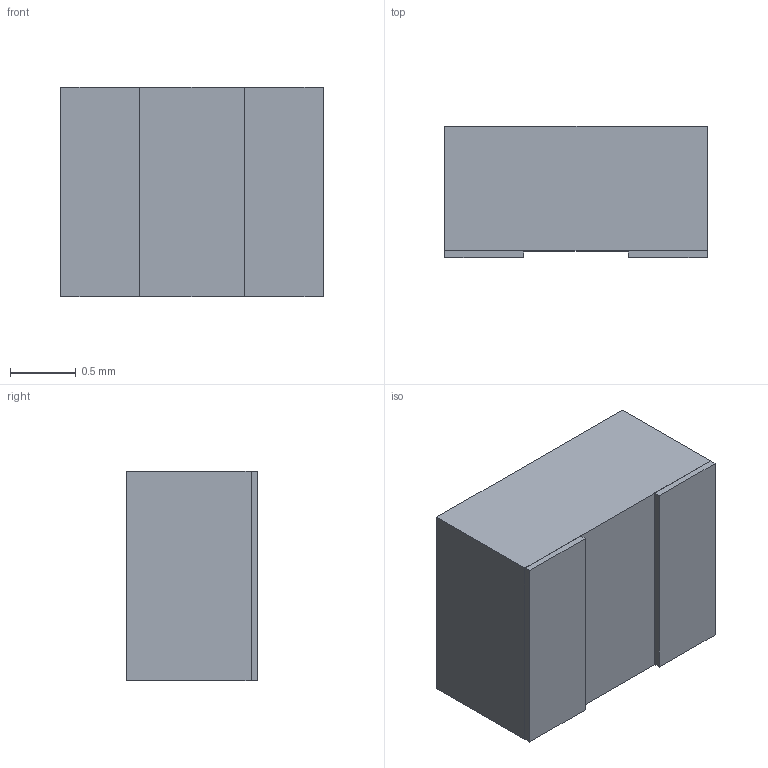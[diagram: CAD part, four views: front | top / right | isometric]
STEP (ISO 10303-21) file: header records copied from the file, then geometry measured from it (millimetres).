
FILE_DESCRIPTION (( 'STEP AP214' ), '1' );
FILE_NAME ('AOTA-B201610S3R3-101-T.STEP', '2026-04-05T09:22:43', ( 'LENOVO' ), ( '' ), 'SwSTEP 2.0', 'SolidWorks 2021', '' );
FILE_SCHEMA (( 'AUTOMOTIVE_DESIGN' ));
Length unit declared in the file: millimetre
Products named in the file (1): AOTA-B201610S3R3-101-T
Bounding box: 2 x 1 x 1.6 mm (x, y, z)
Volume: 3.1 mm3; surface area: 17.8 mm2
Topology: 4 solids, 4 shells, 25 faces, 48 edges, 32 vertices
Faces by surface type: plane 21, cylinder 4
Entity records: 691 total; most frequent: DIRECTION 108, CARTESIAN_POINT 106, ORIENTED_EDGE 96, EDGE_CURVE 48, VECTOR 40, LINE 40, AXIS2_PLACEMENT_3D 34, VERTEX_POINT 32
